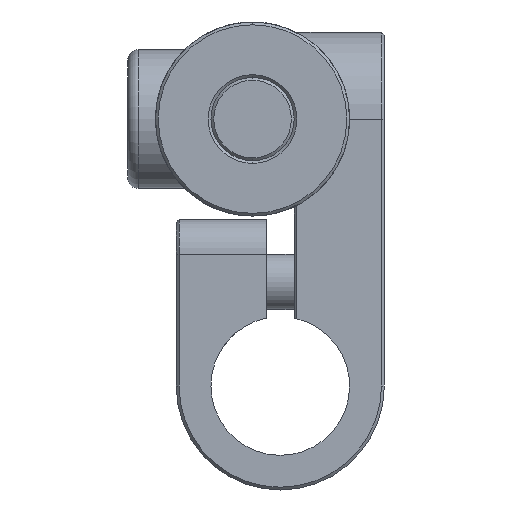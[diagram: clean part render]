
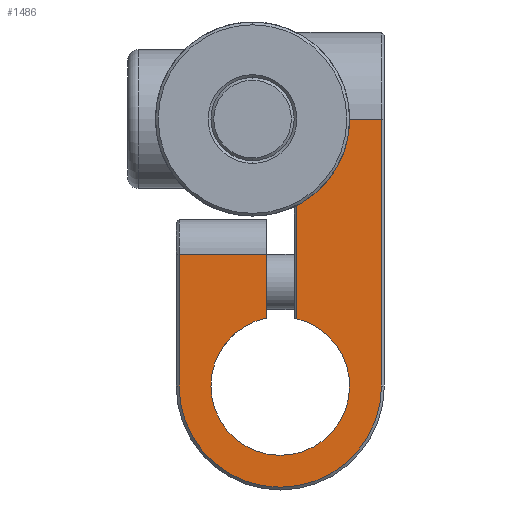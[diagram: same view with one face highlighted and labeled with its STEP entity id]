
A CAD part, front view. The second image highlights one B-rep face of the part: STEP entity #1486.
In plain terms, the highlighted planar face has unit normal (0, -1, 0).
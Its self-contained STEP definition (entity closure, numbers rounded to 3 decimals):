
#1372=PLANE('',#5570);
#1486=ADVANCED_FACE('',(#1839),#1372,.T.);
#1839=FACE_OUTER_BOUND('',#2097,.T.);
#2097=EDGE_LOOP('',(#2928,#2929,#2930,#2931,#2932,#2933,#2934,#2935));
#2373=CIRCLE('',#5544,7.3);
#2386=CIRCLE('',#5569,5.);
#2928=ORIENTED_EDGE('',*,*,#4412,.F.);
#2929=ORIENTED_EDGE('',*,*,#4400,.T.);
#2930=ORIENTED_EDGE('',*,*,#4390,.T.);
#2931=ORIENTED_EDGE('',*,*,#4389,.T.);
#2932=ORIENTED_EDGE('',*,*,#4388,.T.);
#2933=ORIENTED_EDGE('',*,*,#4386,.T.);
#2934=ORIENTED_EDGE('',*,*,#4411,.T.);
#2935=ORIENTED_EDGE('',*,*,#4413,.T.);
#3931=VERTEX_POINT('',#7594);
#3949=VERTEX_POINT('',#7657);
#3950=VERTEX_POINT('',#7661);
#3951=VERTEX_POINT('',#7665);
#3952=VERTEX_POINT('',#7671);
#3958=VERTEX_POINT('',#7701);
#3964=VERTEX_POINT('',#7724);
#3965=VERTEX_POINT('',#7728);
#4386=EDGE_CURVE('',#3950,#3949,#4957,.T.);
#4388=EDGE_CURVE('',#3951,#3950,#2373,.T.);
#4389=EDGE_CURVE('',#3931,#3951,#4959,.T.);
#4390=EDGE_CURVE('',#3952,#3931,#4960,.T.);
#4400=EDGE_CURVE('',#3958,#3952,#4964,.T.);
#4411=EDGE_CURVE('',#3949,#3964,#4968,.T.);
#4412=EDGE_CURVE('',#3958,#3965,#2386,.T.);
#4413=EDGE_CURVE('',#3964,#3965,#4969,.T.);
#4957=LINE('',#7662,#5237);
#4959=LINE('',#7668,#5239);
#4960=LINE('',#7670,#5240);
#4964=LINE('',#7703,#5244);
#4968=LINE('',#7725,#5248);
#4969=LINE('',#7729,#5249);
#5237=VECTOR('',#6298,1.);
#5239=VECTOR('',#6306,1.);
#5240=VECTOR('',#6309,1.);
#5244=VECTOR('',#6331,1.);
#5248=VECTOR('',#6359,1.);
#5249=VECTOR('',#6364,1.);
#5544=AXIS2_PLACEMENT_3D('',#7666,#6302,#6303);
#5569=AXIS2_PLACEMENT_3D('',#7727,#6362,#6363);
#5570=AXIS2_PLACEMENT_3D('',#7730,#6365,#6366);
#6298=DIRECTION('',(0.,0.,1.));
#6302=DIRECTION('',(0.,-1.,0.));
#6303=DIRECTION('',(-1.,0.,0.));
#6306=DIRECTION('',(0.,0.,-1.));
#6309=DIRECTION('',(-1.,0.,0.));
#6331=DIRECTION('',(0.,0.,1.));
#6359=DIRECTION('',(-1.,0.,0.));
#6362=DIRECTION('',(0.,-1.,0.));
#6363=DIRECTION('',(1.,0.,0.));
#6364=DIRECTION('',(0.,0.,-1.));
#6365=DIRECTION('',(0.,-1.,0.));
#6366=DIRECTION('',(-1.,0.,0.));
#7594=CARTESIAN_POINT('',(-11.006,56.074,11.25));
#7657=CARTESIAN_POINT('',(3.594,56.074,21.));
#7661=CARTESIAN_POINT('',(3.594,56.074,1.75));
#7662=CARTESIAN_POINT('',(3.594,56.074,1.75));
#7665=CARTESIAN_POINT('',(-11.006,56.074,1.75));
#7666=CARTESIAN_POINT('',(-3.706,56.074,1.75));
#7668=CARTESIAN_POINT('',(-11.006,56.074,1.75));
#7670=CARTESIAN_POINT('',(-3.706,56.074,11.25));
#7671=CARTESIAN_POINT('',(-4.706,56.074,11.25));
#7701=CARTESIAN_POINT('',(-4.706,56.074,6.649));
#7703=CARTESIAN_POINT('',(-4.706,56.074,13.75));
#7724=CARTESIAN_POINT('',(-2.506,56.074,21.));
#7725=CARTESIAN_POINT('',(-3.706,56.074,21.));
#7727=CARTESIAN_POINT('',(-3.706,56.074,1.75));
#7728=CARTESIAN_POINT('',(-2.506,56.074,6.604));
#7729=CARTESIAN_POINT('',(-2.506,56.074,1.75));
#7730=CARTESIAN_POINT('',(-3.706,56.074,1.75));
